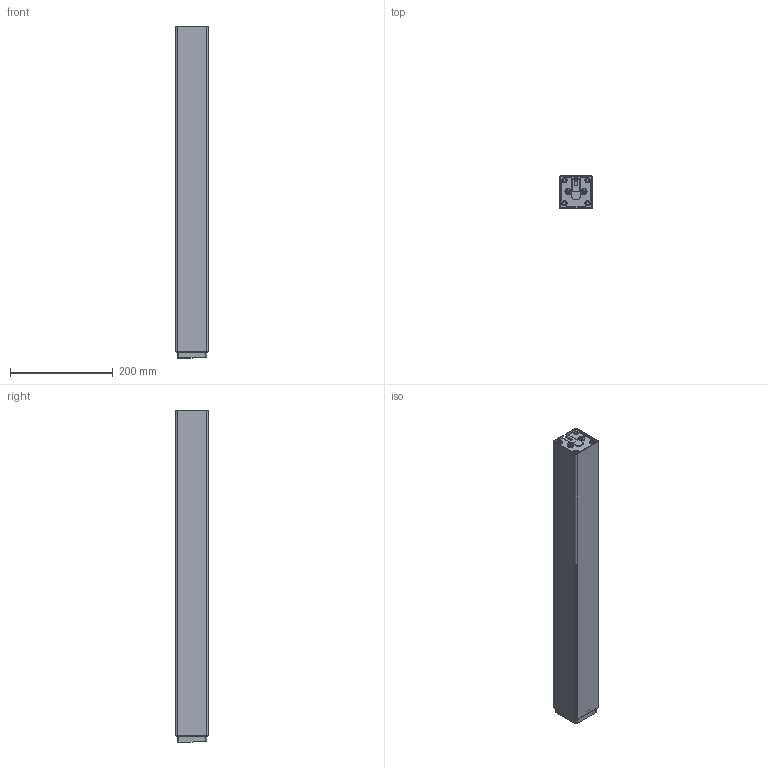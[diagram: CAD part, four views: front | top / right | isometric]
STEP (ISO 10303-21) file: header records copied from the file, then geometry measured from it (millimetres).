
FILE_DESCRIPTION (( 'STEP AP203' ), '1' );
FILE_NAME ('3D_TL38SR.STEP', '2023-10-11T07:01:25', ( '' ), ( '' ), 'SwSTEP 2.0', 'SolidWorks 2015', '' );
FILE_SCHEMA (( 'CONFIG_CONTROL_DESIGN' ));
Length unit declared in the file: millimetre
Products named in the file (1): 3D_TL38SR
Bounding box: 63.5 x 63.5 x 645.5 mm (x, y, z)
Volume: 521314.7 mm3; surface area: 620154.4 mm2
Topology: 10 solids, 10 shells, 1295 faces, 3385 edges, 2083 vertices
Faces by surface type: cylinder 519, plane 425, torus 182, bspline 109, cone 45, sphere 15
Entity records: 47957 total; most frequent: CARTESIAN_POINT 17198, ORIENTED_EDGE 6738, DIRECTION 6201, EDGE_CURVE 3369, AXIS2_PLACEMENT_3D 2278, VERTEX_POINT 2083, LINE 1645, VECTOR 1645
